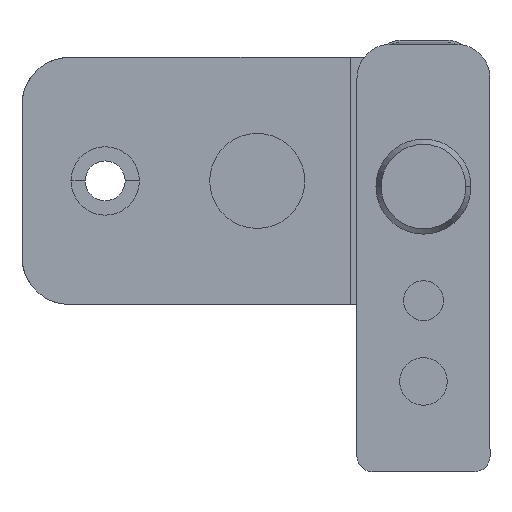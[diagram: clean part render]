
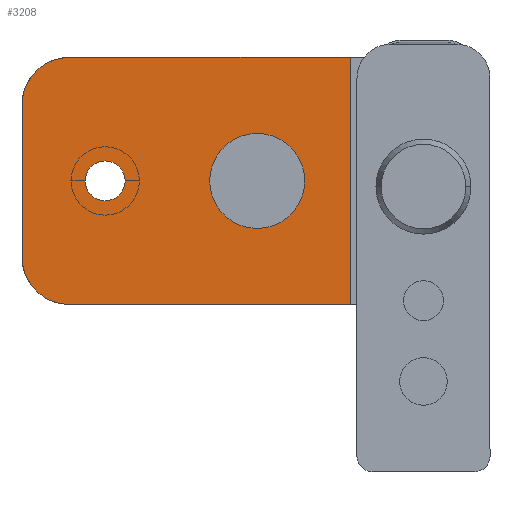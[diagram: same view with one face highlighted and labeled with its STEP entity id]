
A CAD part, front view. The second image highlights one B-rep face of the part: STEP entity #3208.
In plain terms, the highlighted planar face has unit normal (0, -1, 0).
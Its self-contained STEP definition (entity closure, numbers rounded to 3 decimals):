
#17 = VERTEX_POINT ( 'NONE', #969 ) ;
#216 = CARTESIAN_POINT ( 'NONE',  ( -33.5, 547., 0.6 ) ) ;
#217 = DIRECTION ( 'NONE',  ( 0., 1., 0. ) ) ;
#218 = DIRECTION ( 'NONE',  ( -1., 0., 0. ) ) ;
#267 = CARTESIAN_POINT ( 'NONE',  ( -42.25, 547., 13.6 ) ) ;
#268 = DIRECTION ( 'NONE',  ( 0., 0., -1. ) ) ;
#319 = PLANE ( 'NONE',  #639 ) ;
#320 = CARTESIAN_POINT ( 'NONE',  ( -42.25, 547., 13.6 ) ) ;
#321 = DIRECTION ( 'NONE',  ( 0., 1., 0. ) ) ;
#322 = DIRECTION ( 'NONE',  ( -1., 0., 0. ) ) ;
#484 = CARTESIAN_POINT ( 'NONE',  ( -37.25, 547., -12.4 ) ) ;
#491 = CARTESIAN_POINT ( 'NONE',  ( -7.7, 547., -12.4 ) ) ;
#493 = CARTESIAN_POINT ( 'NONE',  ( -42.25, 547., 8.6 ) ) ;
#496 = CARTESIAN_POINT ( 'NONE',  ( -42.25, 547., -7.4 ) ) ;
#606 = AXIS2_PLACEMENT_3D ( 'NONE', #1781, #1782, #1783 ) ;
#608 = AXIS2_PLACEMENT_3D ( 'NONE', #1405, #1406, #1407 ) ;
#609 = AXIS2_PLACEMENT_3D ( 'NONE', #1412, #1413, #1414 ) ;
#639 = AXIS2_PLACEMENT_3D ( 'NONE', #320, #321, #322 ) ;
#781 = AXIS2_PLACEMENT_3D ( 'NONE', #216, #217, #218 ) ;
#798 = CARTESIAN_POINT ( 'NONE',  ( -31.4, 547., 0.6 ) ) ;
#969 = CARTESIAN_POINT ( 'NONE',  ( -7.7, 547., 13.6 ) ) ;
#1046 = EDGE_LOOP ( 'NONE', ( #2768, #2767, #2766, #2765, #2764, #2763 ) ) ;
#1105 = EDGE_LOOP ( 'NONE', ( #2770, #2769 ) ) ;
#1363 = CARTESIAN_POINT ( 'NONE',  ( -35.6, 547., 0.6 ) ) ;
#1399 = CARTESIAN_POINT ( 'NONE',  ( -42.25, 547., 13.6 ) ) ;
#1400 = DIRECTION ( 'NONE',  ( 1., 0., 0. ) ) ;
#1405 = CARTESIAN_POINT ( 'NONE',  ( -33.5, 547., 0.6 ) ) ;
#1406 = DIRECTION ( 'NONE',  ( 0., 1., 0. ) ) ;
#1407 = DIRECTION ( 'NONE',  ( -1., 0., 0. ) ) ;
#1408 = CARTESIAN_POINT ( 'NONE',  ( -42.25, 547., -12.4 ) ) ;
#1409 = DIRECTION ( 'NONE',  ( 1., 0., 0. ) ) ;
#1410 = CARTESIAN_POINT ( 'NONE',  ( -7.7, 547., 13.6 ) ) ;
#1411 = DIRECTION ( 'NONE',  ( 0., 0., -1. ) ) ;
#1412 = CARTESIAN_POINT ( 'NONE',  ( -37.25, 547., 8.6 ) ) ;
#1413 = DIRECTION ( 'NONE',  ( 0., -1., 0. ) ) ;
#1414 = DIRECTION ( 'NONE',  ( -1., 0., 0. ) ) ;
#1713 = VERTEX_POINT ( 'NONE', #4512 ) ;
#1781 = CARTESIAN_POINT ( 'NONE',  ( -37.25, 547., -7.4 ) ) ;
#1782 = DIRECTION ( 'NONE',  ( 0., -1., 0. ) ) ;
#1783 = DIRECTION ( 'NONE',  ( -1., 0., 0. ) ) ;
#1817 = CIRCLE ( 'NONE', #606, 5. ) ;
#1825 = LINE ( 'NONE', #1399, #1826 ) ;
#1826 = VECTOR ( 'NONE', #1400, 1000. ) ;
#1831 = LINE ( 'NONE', #1408, #1833 ) ;
#1832 = CIRCLE ( 'NONE', #608, 2.1 ) ;
#1833 = VECTOR ( 'NONE', #1409, 1000. ) ;
#1834 = LINE ( 'NONE', #1410, #1835 ) ;
#1835 = VECTOR ( 'NONE', #1411, 1000. ) ;
#1837 = CIRCLE ( 'NONE', #609, 5. ) ;
#1922 = LINE ( 'NONE', #267, #1923 ) ;
#1923 = VECTOR ( 'NONE', #268, 1000. ) ;
#1938 = FACE_BOUND ( 'NONE', #1105, .T. ) ;
#1939 = FACE_OUTER_BOUND ( 'NONE', #1046, .T. ) ;
#2279 = CIRCLE ( 'NONE', #781, 2.1 ) ;
#2763 = ORIENTED_EDGE ( 'NONE', *, *, #2941, .T. ) ;
#2764 = ORIENTED_EDGE ( 'NONE', *, *, #2935, .F. ) ;
#2765 = ORIENTED_EDGE ( 'NONE', *, *, #2940, .F. ) ;
#2766 = ORIENTED_EDGE ( 'NONE', *, *, #2939, .T. ) ;
#2767 = ORIENTED_EDGE ( 'NONE', *, *, #2930, .T. ) ;
#2768 = ORIENTED_EDGE ( 'NONE', *, *, #2995, .T. ) ;
#2769 = ORIENTED_EDGE ( 'NONE', *, *, #4712, .T. ) ;
#2770 = ORIENTED_EDGE ( 'NONE', *, *, #2938, .T. ) ;
#2930 = EDGE_CURVE ( 'NONE', #4235, #4223, #1817, .T. ) ;
#2935 = EDGE_CURVE ( 'NONE', #1713, #17, #1825, .T. ) ;
#2938 = EDGE_CURVE ( 'NONE', #3614, #3878, #1832, .T. ) ;
#2939 = EDGE_CURVE ( 'NONE', #4223, #4230, #1831, .T. ) ;
#2940 = EDGE_CURVE ( 'NONE', #17, #4230, #1834, .T. ) ;
#2941 = EDGE_CURVE ( 'NONE', #1713, #4232, #1837, .T. ) ;
#2995 = EDGE_CURVE ( 'NONE', #4232, #4235, #1922, .T. ) ;
#3208 = ADVANCED_FACE ( 'NONE', ( #1938, #1939 ), #319, .F. ) ;
#3614 = VERTEX_POINT ( 'NONE', #1363 ) ;
#3878 = VERTEX_POINT ( 'NONE', #798 ) ;
#4223 = VERTEX_POINT ( 'NONE', #484 ) ;
#4230 = VERTEX_POINT ( 'NONE', #491 ) ;
#4232 = VERTEX_POINT ( 'NONE', #493 ) ;
#4235 = VERTEX_POINT ( 'NONE', #496 ) ;
#4512 = CARTESIAN_POINT ( 'NONE',  ( -37.25, 547., 13.6 ) ) ;
#4712 = EDGE_CURVE ( 'NONE', #3878, #3614, #2279, .T. ) ;
